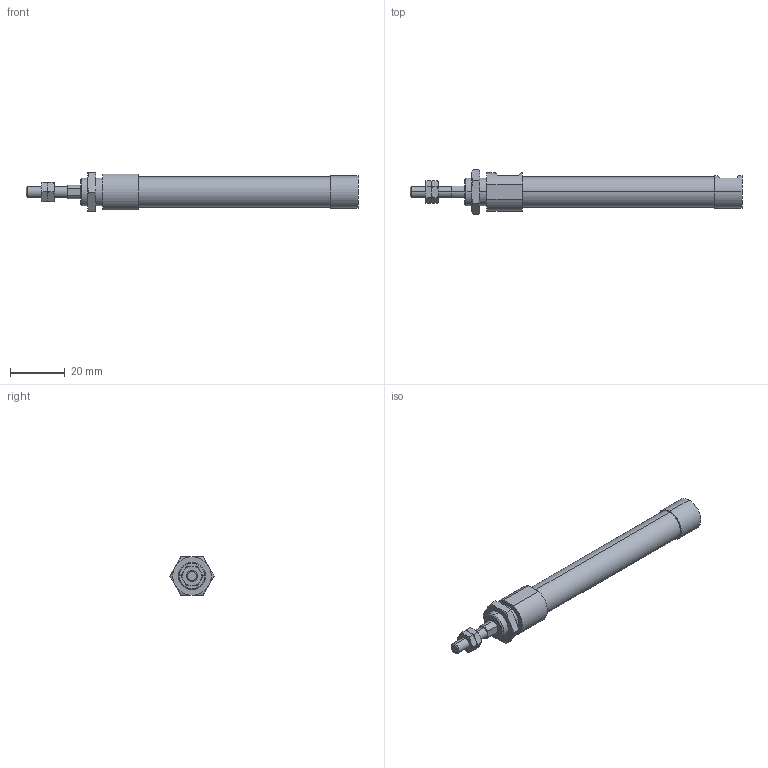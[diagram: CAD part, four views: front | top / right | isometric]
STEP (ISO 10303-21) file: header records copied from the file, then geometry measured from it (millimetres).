
FILE_DESCRIPTION (( 'STEP AP203' ), '1' );
FILE_NAME ('ZGU2-10-45-N.STEP', '2016-03-31T00:53:52', ( '' ), ( '' ), 'SwSTEP 2.0', 'SolidWorks 2014', '' );
FILE_SCHEMA (( 'CONFIG_CONTROL_DESIGN' ));
Length unit declared in the file: millimetre
Products named in the file (4): ZGU2-10-45; ZGU2-10-45-N
Assembly tree (4 placements, depth 2):
  ZGU2-10-45-N
    ZGU2-10-45
    (unnamed)  x2
    (unnamed)
Bounding box: 121 x 16.17 x 14 mm (x, y, z)
Volume: 10830 mm3; surface area: 5141.1 mm2
Topology: 4 solids, 4 shells, 108 faces, 235 edges, 140 vertices
Faces by surface type: plane 41, torus 36, cylinder 23, cone 8
Entity records: 3047 total; most frequent: CARTESIAN_POINT 792, DIRECTION 387, ORIENTED_EDGE 366, EDGE_CURVE 183, AXIS2_PLACEMENT_3D 163, VERTEX_POINT 112, EDGE_LOOP 99, FACE_OUTER_BOUND 86
